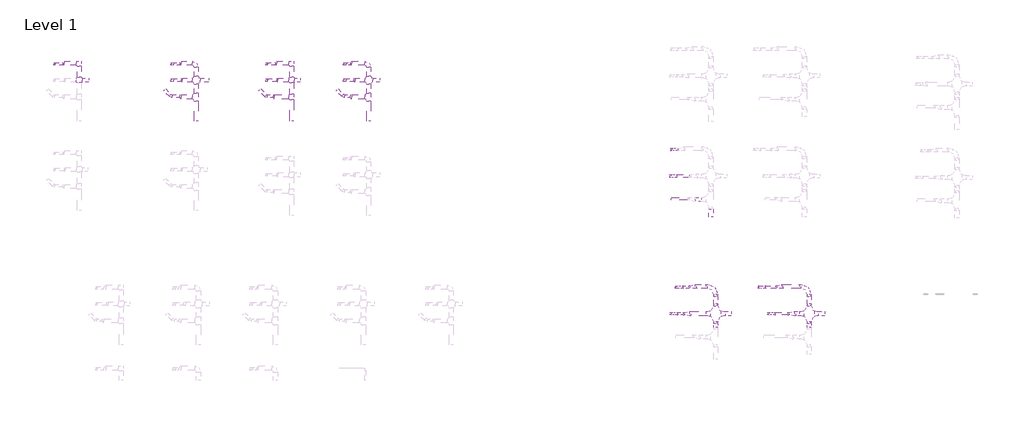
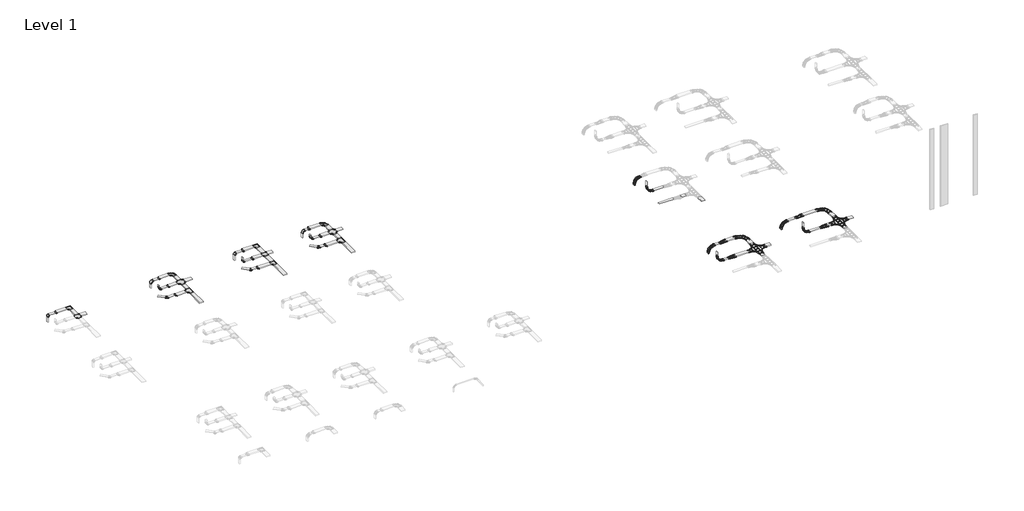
# One storey, part 4 of 42: 68 cable carrier segments, 45 cable carrier fittings.
"""IFC4 building model written with IfcOpenShell, lengths in millimetres."""

from ifc_helpers import new_model, si_unit, frame, origin, place, context, project, spatial, polyline, outline, extrude, transform, mapped, element, save
from components import cable_carrier_fitting_1_mm_2a4d519b, cable_carrier_fitting_1_mm_2e661681, cable_carrier_fitting_1_mm_c912ada3, cable_carrier_fitting_1_mm_805de479, cable_carrier_fitting_1_mm_529289f4, cable_carrier_fitting_1_mm_c1197fce, cable_carrier_fitting_1_mm_2da36d92, cable_carrier_fitting_1_mm_367de262, cable_carrier_fitting_1_mm_1f39f8d9, cable_carrier_fitting_1_mm_a7febe8f, cable_carrier_fitting_1_mm_28e4292d, cable_carrier_fitting_1_mm_fc54f34e, cable_carrier_fitting_1_mm_42b71fda, cable_carrier_fitting_1_mm_2ed8489a, cable_carrier_fitting_1_mm_6bbfc198, cable_carrier_fitting_1_mm_6862339d, cable_carrier_fitting_1_mm_9a7406c8, cable_carrier_fitting_1_mm_9e79036f, cable_carrier_fitting_1_mm_d3f2b815, cable_carrier_fitting_1_mm_5924018d, cable_carrier_fitting_1_mm_d51f4f64, cable_carrier_fitting_1_mm_cfe8fd75, cable_carrier_fitting_1_mm_02684e42, cable_carrier_fitting_1_mm_9e154423, cable_carrier_fitting_1_5_mm_cc8ef015, cable_carrier_fitting_1_5_mm_7721eeaa, cable_carrier_fitting_1_5_mm_3523910d, cable_carrier_fitting_1_5_mm_74426db5, cable_carrier_fitting_1_5_mm_c053843e, cable_carrier_fitting_1_5_mm_2af02ecb, cable_carrier_fitting_1_5_mm_0168b917, cable_carrier_fitting_1_5_mm_19f47176, cable_carrier_fitting_1_5_mm_861352f9, cable_carrier_fitting_1_5_mm_f55de235

model = new_model("IFC4")

# Units and contexts
model_context = context("Model", 3, world=origin())
ifc_project = project(units=[si_unit("LENGTHUNIT", "METRE", prefix="MILLI")], contexts=[model_context])

# Site, building, storey
site = spatial("IfcSite", under=ifc_project)
building = spatial("IfcBuilding", under=site)
storey = spatial("IfcBuildingStorey", under=building, Name="Level 1", Elevation=0.0)

# Cable carrier fittings
placement = place(None, origin())
cable_carrier_fitting_1_mm_shape = cable_carrier_fitting_1_mm_2a4d519b(model_context)
element("IfcCableCarrierFitting", 1, ObjectType="BAKS_Redukcja : 1 mm", at=placement, inside=storey, context=model_context, shape_type="MappedRepresentation", body=[
    mapped(cable_carrier_fitting_1_mm_shape, transform((-20692.5109632, 18572.5015825, 2750.0), x_axis=(1.0, 0.0, 0.0), y_axis=(0.0, 1.0, 0.0), z_axis=(0.0, 0.0, 1.0))),
])
cable_carrier_fitting_1_mm_2_shape = cable_carrier_fitting_1_mm_2e661681(model_context)
element("IfcCableCarrierFitting", 2, ObjectType="BAKS_Redukcja : 1 mm", at=placement, inside=storey, context=model_context, shape_type="MappedRepresentation", body=[
    mapped(cable_carrier_fitting_1_mm_2_shape, transform((-29212.5109632, 19790.4928401, 2750.0), x_axis=(-1.0, 0.0, 0.0), y_axis=(0.0, -1.0, 0.0), z_axis=(0.0, 0.0, 1.0))),
])
element("IfcCableCarrierFitting", 3, ObjectType="BAKS_Redukcja : 1 mm", at=placement, inside=storey, context=model_context, shape_type="MappedRepresentation", body=[
    mapped(cable_carrier_fitting_1_mm_2_shape, transform((-20692.5109632, 19790.4928401, 2750.0), x_axis=(-1.0, 0.0, 0.0), y_axis=(0.0, -1.0, 0.0), z_axis=(0.0, 0.0, 1.0))),
])
cable_carrier_fitting_1_mm_3_shape = cable_carrier_fitting_1_mm_c912ada3(model_context)
element("IfcCableCarrierFitting", 4, ObjectType="BAKS_Redukcja : 1 mm", at=placement, inside=storey, context=model_context, shape_type="MappedRepresentation", body=[
    mapped(cable_carrier_fitting_1_mm_3_shape, transform((-20692.5109632, 17341.8691699, 2750.0), x_axis=(-1.0, 0.0, 0.0), y_axis=(0.0, -1.0, 0.0), z_axis=(0.0, 0.0, 1.0))),
])
cable_carrier_fitting_1_mm_4_shape = cable_carrier_fitting_1_mm_805de479(model_context)
element("IfcCableCarrierFitting", 5, ObjectType="BAKS_Redukcja : 1 mm", at=placement, inside=storey, context=model_context, shape_type="MappedRepresentation", body=[
    mapped(cable_carrier_fitting_1_mm_4_shape, transform((-13752.21471, 18572.5015825, 2750.0), x_axis=(1.0, 0.0, 0.0), y_axis=(0.0, 1.0, 0.0), z_axis=(0.0, 0.0, 1.0))),
])
element("IfcCableCarrierFitting", 6, ObjectType="BAKS_Redukcja : 1 mm", at=placement, inside=storey, context=model_context, shape_type="MappedRepresentation", body=[
    mapped(cable_carrier_fitting_1_mm_4_shape, transform((-8132.21471, 18572.5015825, 2750.0), x_axis=(1.0, 0.0, 0.0), y_axis=(0.0, 1.0, 0.0), z_axis=(0.0, 0.0, 1.0))),
])
cable_carrier_fitting_1_mm_5_shape = cable_carrier_fitting_1_mm_529289f4(model_context)
element("IfcCableCarrierFitting", 7, ObjectType="BAKS_Redukcja : 1 mm", at=placement, inside=storey, context=model_context, shape_type="MappedRepresentation", body=[
    mapped(cable_carrier_fitting_1_mm_5_shape, transform((-13752.21471, 19790.4928401, 2750.0), x_axis=(-1.0, 0.0, 0.0), y_axis=(0.0, -1.0, 0.0), z_axis=(0.0, 0.0, 1.0))),
])
element("IfcCableCarrierFitting", 8, ObjectType="BAKS_Redukcja : 1 mm", at=placement, inside=storey, context=model_context, shape_type="MappedRepresentation", body=[
    mapped(cable_carrier_fitting_1_mm_5_shape, transform((-8292.21471, 19790.4928401, 2750.0), x_axis=(-1.0, 0.0, 0.0), y_axis=(0.0, -1.0, 0.0), z_axis=(0.0, 0.0, 1.0))),
])
cable_carrier_fitting_1_mm_6_shape = cable_carrier_fitting_1_mm_c1197fce(model_context)
element("IfcCableCarrierFitting", 9, ObjectType="BAKS_Redukcja : 1 mm", at=placement, inside=storey, context=model_context, shape_type="MappedRepresentation", body=[
    mapped(cable_carrier_fitting_1_mm_6_shape, transform((-13912.21471, 17341.8691699, 2750.0), x_axis=(-1.0, 0.0, 0.0), y_axis=(0.0, -1.0, 0.0), z_axis=(0.0, 0.0, 1.0))),
])
element("IfcCableCarrierFitting", 10, ObjectType="BAKS_Redukcja : 1 mm", at=placement, inside=storey, context=model_context, shape_type="MappedRepresentation", body=[
    mapped(cable_carrier_fitting_1_mm_6_shape, transform((-8292.21471, 17341.8691699, 2750.0), x_axis=(-1.0, 0.0, 0.0), y_axis=(0.0, -1.0, 0.0), z_axis=(0.0, 0.0, 1.0))),
])
cable_carrier_fitting_1_mm_7_shape = cable_carrier_fitting_1_mm_2da36d92(model_context)
element("IfcCableCarrierFitting", 11, ObjectType="BAKS_Czwórnik_koryta (R140) : 1 mm", at=placement, inside=storey, context=model_context, shape_type="MappedRepresentation", body=[
    mapped(cable_carrier_fitting_1_mm_7_shape, transform((-19592.5109632, 18572.5015825, 2750.0), x_axis=(0.0, 1.0, 0.0), y_axis=(-1.0, 0.0, 0.0), z_axis=(0.0, 0.0, 1.0))),
])
cable_carrier_fitting_1_mm_8_shape = cable_carrier_fitting_1_mm_367de262(model_context)
element("IfcCableCarrierFitting", 12, ObjectType="BAKS_Czwórnik_koryta (R140) : 1 mm", at=placement, inside=storey, context=model_context, shape_type="MappedRepresentation", body=[
    mapped(cable_carrier_fitting_1_mm_8_shape, transform((-7032.21471, 18572.5015825, 2750.0), x_axis=(0.0, 1.0, 0.0), y_axis=(-1.0, 0.0, 0.0), z_axis=(0.0, 0.0, 1.0))),
])
cable_carrier_fitting_1_mm_9_shape = cable_carrier_fitting_1_mm_1f39f8d9(model_context)
element("IfcCableCarrierFitting", 13, ObjectType="BAKS_Trójnik_koryta (R140) : 1 mm", at=placement, inside=storey, context=model_context, shape_type="MappedRepresentation", body=[
    mapped(cable_carrier_fitting_1_mm_9_shape, transform((-19592.5109632, 17341.8691699, 2750.0), x_axis=(0.0, -1.0, 0.0), y_axis=(1.0, 0.0, 0.0), z_axis=(0.0, 0.0, 1.0))),
])
cable_carrier_fitting_1_mm_10_shape = cable_carrier_fitting_1_mm_a7febe8f(model_context)
element("IfcCableCarrierFitting", 14, ObjectType="BAKS_Trójnik_koryta (R140) : 1 mm", at=placement, inside=storey, context=model_context, shape_type="MappedRepresentation", body=[
    mapped(cable_carrier_fitting_1_mm_10_shape, transform((-7032.21471, 17341.8691699, 2750.0), x_axis=(0.0, -1.0, 0.0), y_axis=(1.0, 0.0, 0.0), z_axis=(0.0, 0.0, 1.0))),
])
cable_carrier_fitting_1_mm_11_shape = cable_carrier_fitting_1_mm_28e4292d(model_context)
element("IfcCableCarrierFitting", 15, ObjectType="BAKS_Kolano_koryta : 1 mm", at=placement, inside=storey, context=model_context, shape_type="MappedRepresentation", body=[
    mapped(cable_carrier_fitting_1_mm_11_shape, transform((-28112.5109632, 19790.4928401, 2750.0), x_axis=(0.0, 1.0, 0.0), y_axis=(-1.0, 0.0, 0.0), z_axis=(0.0, 0.0, 1.0))),
])
cable_carrier_fitting_1_mm_12_shape = cable_carrier_fitting_1_mm_fc54f34e(model_context)
element("IfcCableCarrierFitting", 16, ObjectType="BAKS_Kolano_koryta : 1 mm", at=placement, inside=storey, context=model_context, shape_type="MappedRepresentation", body=[
    mapped(cable_carrier_fitting_1_mm_12_shape, transform((-14492.21471, 17391.8691699, 2750.0), x_axis=(0.7071067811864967, -0.7071067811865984, 0.0), y_axis=(0.7071067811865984, 0.7071067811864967, 0.0), z_axis=(0.0, 0.0, 1.0))),
])
cable_carrier_fitting_1_mm_13_shape = cable_carrier_fitting_1_mm_42b71fda(model_context)
element("IfcCableCarrierFitting", 17, ObjectType="BAKS_Kolano_koryta : 1 mm", at=placement, inside=storey, context=model_context, shape_type="MappedRepresentation", body=[
    mapped(cable_carrier_fitting_1_mm_13_shape, transform((-12652.21471, 19790.4928401, 2750.0), x_axis=(0.0, 1.0, 0.0), y_axis=(-1.0, 0.0, 0.0), z_axis=(0.0, 0.0, 1.0))),
])
cable_carrier_fitting_1_mm_14_shape = cable_carrier_fitting_1_mm_2ed8489a(model_context)
element("IfcCableCarrierFitting", 18, ObjectType="BAKS_Kolano_koryta (R140) : 1 mm", at=placement, inside=storey, context=model_context, shape_type="MappedRepresentation", body=[
    mapped(cable_carrier_fitting_1_mm_14_shape, transform((-21432.5109632, 17391.8691699, 2750.0), x_axis=(0.7071067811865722, -0.7071067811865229, 0.0), y_axis=(0.7071067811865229, 0.7071067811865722, 0.0), z_axis=(0.0, 0.0, 1.0))),
])
cable_carrier_fitting_1_mm_15_shape = cable_carrier_fitting_1_mm_6bbfc198(model_context)
element("IfcCableCarrierFitting", 19, ObjectType="BAKS_Kolano_koryta (R140) : 1 mm", at=placement, inside=storey, context=model_context, shape_type="MappedRepresentation", body=[
    mapped(cable_carrier_fitting_1_mm_15_shape, transform((-19592.5109632, 19790.4928401, 2750.0), x_axis=(0.0, 1.0, 0.0), y_axis=(-1.0, 0.0, 0.0), z_axis=(0.0, 0.0, 1.0))),
])
cable_carrier_fitting_1_mm_16_shape = cable_carrier_fitting_1_mm_6862339d(model_context)
element("IfcCableCarrierFitting", 20, ObjectType="BAKS_Kolano_koryta (R140) : 1 mm", at=placement, inside=storey, context=model_context, shape_type="MappedRepresentation", body=[
    mapped(cable_carrier_fitting_1_mm_16_shape, transform((-8872.21471, 17391.8691699, 2750.0), x_axis=(0.7071067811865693, -0.7071067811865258, 0.0), y_axis=(0.7071067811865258, 0.7071067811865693, 0.0), z_axis=(0.0, 0.0, 1.0))),
])
cable_carrier_fitting_1_mm_17_shape = cable_carrier_fitting_1_mm_9a7406c8(model_context)
element("IfcCableCarrierFitting", 21, ObjectType="BAKS_Kolano_koryta (R140) : 1 mm", at=placement, inside=storey, context=model_context, shape_type="MappedRepresentation", body=[
    mapped(cable_carrier_fitting_1_mm_17_shape, transform((-7032.21471, 19790.4928401, 2750.0), x_axis=(0.0, 1.0, 0.0), y_axis=(-1.0, 0.0, 0.0), z_axis=(0.0, 0.0, 1.0))),
])
cable_carrier_fitting_1_mm_18_shape = cable_carrier_fitting_1_mm_9e79036f(model_context)
element("IfcCableCarrierFitting", 22, ObjectType="BAKS_Czwórnik_koryta : 1 mm", at=placement, inside=storey, context=model_context, shape_type="MappedRepresentation", body=[
    mapped(cable_carrier_fitting_1_mm_18_shape, transform((-28112.5109632, 18572.5015825, 2750.0), x_axis=(0.0, 1.0, 0.0), y_axis=(-1.0, 0.0, 0.0), z_axis=(0.0, 0.0, 1.0))),
])
cable_carrier_fitting_1_mm_19_shape = cable_carrier_fitting_1_mm_d3f2b815(model_context)
element("IfcCableCarrierFitting", 23, ObjectType="BAKS_Czwórnik_koryta : 1 mm", at=placement, inside=storey, context=model_context, shape_type="MappedRepresentation", body=[
    mapped(cable_carrier_fitting_1_mm_19_shape, transform((-12652.21471, 18572.5015825, 2750.0), x_axis=(0.0, 1.0, 0.0), y_axis=(-1.0, 0.0, 0.0), z_axis=(0.0, 0.0, 1.0))),
])
cable_carrier_fitting_1_mm_20_shape = cable_carrier_fitting_1_mm_5924018d(model_context)
element("IfcCableCarrierFitting", 24, ObjectType="BAKS_Trójnik_koryta : 1 mm", at=placement, inside=storey, context=model_context, shape_type="MappedRepresentation", body=[
    mapped(cable_carrier_fitting_1_mm_20_shape, transform((-12652.21471, 17341.8691699, 2750.0), x_axis=(0.0, -1.0, 0.0), y_axis=(1.0, 0.0, 0.0), z_axis=(0.0, 0.0, 1.0))),
])
cable_carrier_fitting_1_mm_21_shape = cable_carrier_fitting_1_mm_d51f4f64(model_context)
element("IfcCableCarrierFitting", 25, ObjectType="BAKS_Łuk_koryta_pionowy (R50)z : 1 mm", at=placement, inside=storey, context=model_context, shape_type="MappedRepresentation", body=[
    mapped(cable_carrier_fitting_1_mm_21_shape, transform((-29952.5109632, 19740.4928401, 2750.0), x_axis=(0.0, 0.0, 1.0), y_axis=(1.0, 0.0, 0.0), z_axis=(0.0, 1.0, 0.0))),
])
cable_carrier_fitting_1_mm_22_shape = cable_carrier_fitting_1_mm_cfe8fd75(model_context)
element("IfcCableCarrierFitting", 26, ObjectType="BAKS_Łuk_koryta_pionowy (R50)z : 1 mm", at=placement, inside=storey, context=model_context, shape_type="MappedRepresentation", body=[
    mapped(cable_carrier_fitting_1_mm_22_shape, transform((-14492.21471, 19740.4928401, 2750.0), x_axis=(0.0, 0.0, 1.0), y_axis=(1.0, 0.0, 0.0), z_axis=(0.0, 1.0, 0.0))),
])
element("IfcCableCarrierFitting", 27, ObjectType="BAKS_Łuk_koryta_pionowy (R50)w : 1 mm", at=placement, inside=storey, context=model_context, shape_type="MappedRepresentation", body=[
    mapped(cable_carrier_fitting_1_mm_22_shape, transform((-14492.21471, 18572.5015825, 2750.0), x_axis=(0.0, 0.0, -1.0), y_axis=(1.0, 0.0, 0.0), z_axis=(0.0, -1.0, 0.0))),
])
cable_carrier_fitting_1_mm_23_shape = cable_carrier_fitting_1_mm_02684e42(model_context)
element("IfcCableCarrierFitting", 28, ObjectType="BAKS_Łuk_koryta_pionowy (R140)z : 1 mm", at=placement, inside=storey, context=model_context, shape_type="MappedRepresentation", body=[
    mapped(cable_carrier_fitting_1_mm_23_shape, transform((-8872.21471, 19740.4928401, 2750.0), x_axis=(0.0, 0.0, 1.0), y_axis=(1.0, 0.0, 0.0), z_axis=(0.0, 1.0, 0.0))),
])
cable_carrier_fitting_1_mm_24_shape = cable_carrier_fitting_1_mm_9e154423(model_context)
element("IfcCableCarrierFitting", 29, ObjectType="BAKS_Łuk_koryta_pionowy (R140)z : 1 mm", at=placement, inside=storey, context=model_context, shape_type="MappedRepresentation", body=[
    mapped(cable_carrier_fitting_1_mm_24_shape, transform((-21432.5109632, 19740.4928401, 2750.0), x_axis=(0.0, 0.0, 1.0), y_axis=(1.0, 0.0, 0.0), z_axis=(0.0, 1.0, 0.0))),
])
element("IfcCableCarrierFitting", 30, ObjectType="BAKS_Łuk_koryta_pionowy (R140)w : 1 mm", at=placement, inside=storey, context=model_context, shape_type="MappedRepresentation", body=[
    mapped(cable_carrier_fitting_1_mm_23_shape, transform((-8872.21471, 18572.5015825, 2750.0), x_axis=(0.0, 0.0, -1.0), y_axis=(1.0, 0.0, 0.0), z_axis=(0.0, -1.0, 0.0))),
])
element("IfcCableCarrierFitting", 31, ObjectType="BAKS_Łuk_koryta_pionowy (R140)w : 1 mm", at=placement, inside=storey, context=model_context, shape_type="MappedRepresentation", body=[
    mapped(cable_carrier_fitting_1_mm_24_shape, transform((-21432.5109632, 18572.5015825, 2750.0), x_axis=(0.0, 0.0, -1.0), y_axis=(1.0, 0.0, 0.0), z_axis=(0.0, -1.0, 0.0))),
])
cable_carrier_fitting_1_5_mm_shape = cable_carrier_fitting_1_5_mm_cc8ef015(model_context)
element("IfcCableCarrierFitting", 32, ObjectType="BAKS_Łuk_pionowy_drabiny_zew E90 : 1.5 mm", at=placement, inside=storey, context=model_context, shape_type="MappedRepresentation", body=[
    mapped(cable_carrier_fitting_1_5_mm_shape, transform((21336.055047, 3486.5465, 2750.0), x_axis=(0.0, 0.0, 1.0), y_axis=(1.0, 0.0, 0.0), z_axis=(0.0, 1.0, 0.0))),
])
element("IfcCableCarrierFitting", 33, ObjectType="BAKS_Łuk_pionowy_drabiny_zew E90 : 1.5 mm", at=placement, inside=storey, context=model_context, shape_type="MappedRepresentation", body=[
    mapped(cable_carrier_fitting_1_5_mm_shape, transform((15313.9258241, 3486.5465, 2750.0), x_axis=(0.0, 0.0, 1.0), y_axis=(1.0, 0.0, 0.0), z_axis=(0.0, 1.0, 0.0))),
])
cable_carrier_fitting_1_5_mm_2_shape = cable_carrier_fitting_1_5_mm_7721eeaa(model_context)
element("IfcCableCarrierFitting", 34, ObjectType="BAKS_Łuk_pionowy_drabiny_wew E90 : 1.5 mm", at=placement, inside=storey, context=model_context, shape_type="MappedRepresentation", body=[
    mapped(cable_carrier_fitting_1_5_mm_2_shape, transform((14941.055047, 1549.7680497, 2750.0), x_axis=(0.0, 0.0, -1.0), y_axis=(1.0, 0.0, 0.0), z_axis=(0.0, -1.0, 0.0))),
])
element("IfcCableCarrierFitting", 35, ObjectType="BAKS_Łuk_pionowy_drabiny_wew E90 : 1.5 mm", at=placement, inside=storey, context=model_context, shape_type="MappedRepresentation", body=[
    mapped(cable_carrier_fitting_1_5_mm_2_shape, transform((22041.055047, 1549.7680497, 2750.0), x_axis=(0.0, 0.0, -1.0), y_axis=(1.0, 0.0, 0.0), z_axis=(0.0, -1.0, 0.0))),
])
cable_carrier_fitting_1_5_mm_3_shape = cable_carrier_fitting_1_5_mm_3523910d(model_context)
element("IfcCableCarrierFitting", 36, ObjectType="BAKS_Łuk_drabiny E90 : 1.5 mm", at=placement, inside=storey, context=model_context, shape_type="MappedRepresentation", body=[
    mapped(cable_carrier_fitting_1_5_mm_3_shape, transform((25012.7309526, 3536.5465, 2750.0), x_axis=(0.0, 1.0, 0.0), y_axis=(-1.0, 0.0, 0.0), z_axis=(0.0, 0.0, 1.0))),
])
element("IfcCableCarrierFitting", 37, ObjectType="BAKS_Łuk_drabiny E90 : 1.5 mm", at=placement, inside=storey, context=model_context, shape_type="MappedRepresentation", body=[
    mapped(cable_carrier_fitting_1_5_mm_3_shape, transform((18212.7309526, 3536.5465, 2750.0), x_axis=(0.0, 1.0, 0.0), y_axis=(-1.0, 0.0, 0.0), z_axis=(0.0, 0.0, 1.0))),
])
cable_carrier_fitting_1_5_mm_4_shape = cable_carrier_fitting_1_5_mm_74426db5(model_context)
element("IfcCableCarrierFitting", 38, ObjectType="BAKS_Redukcja_drabiny E90 : 1.5 mm", at=placement, inside=storey, context=model_context, shape_type="MappedRepresentation", body=[
    mapped(cable_carrier_fitting_1_5_mm_4_shape, transform((16441.055047, 1549.7680497, 2750.0), x_axis=(-1.0, 0.0, 0.0), y_axis=(0.0, -1.0, 0.0), z_axis=(0.0, 0.0, 1.0))),
])
cable_carrier_fitting_1_5_mm_5_shape = cable_carrier_fitting_1_5_mm_c053843e(model_context)
element("IfcCableCarrierFitting", 39, ObjectType="BAKS_Redukcja_drabiny E90 : 1.5 mm", at=placement, inside=storey, context=model_context, shape_type="MappedRepresentation", body=[
    mapped(cable_carrier_fitting_1_5_mm_5_shape, transform((23461.055047, 1549.7680497, 2750.0), x_axis=(1.0, 0.0, 0.0), y_axis=(0.0, 1.0, 0.0), z_axis=(0.0, 0.0, 1.0))),
])
cable_carrier_fitting_1_5_mm_6_shape = cable_carrier_fitting_1_5_mm_2af02ecb(model_context)
element("IfcCableCarrierFitting", 40, ObjectType="BAKS_Redukcja_drabiny E90 : 1.5 mm", at=placement, inside=storey, context=model_context, shape_type="MappedRepresentation", body=[
    mapped(cable_carrier_fitting_1_5_mm_6_shape, transform((23146.1450634, 3536.5465, 2750.0), x_axis=(-1.0, 0.0, 0.0), y_axis=(0.0, -1.0, 0.0), z_axis=(0.0, 0.0, 1.0))),
])
cable_carrier_fitting_1_5_mm_7_shape = cable_carrier_fitting_1_5_mm_0168b917(model_context)
element("IfcCableCarrierFitting", 41, ObjectType="BAKS_Redukcja_drabiny E90 : 1.5 mm", at=placement, inside=storey, context=model_context, shape_type="MappedRepresentation", body=[
    mapped(cable_carrier_fitting_1_5_mm_7_shape, transform((16232.7309526, 3486.5465, 2750.0), x_axis=(1.0, 0.0, 0.0), y_axis=(0.0, 1.0, 0.0), z_axis=(0.0, 0.0, 1.0))),
])
cable_carrier_fitting_1_5_mm_8_shape = cable_carrier_fitting_1_5_mm_19f47176(model_context)
element("IfcCableCarrierFitting", 42, ObjectType="BAKS_Czwórnik_drabiny E90 : 1.5 mm", at=placement, inside=storey, context=model_context, shape_type="MappedRepresentation", body=[
    mapped(cable_carrier_fitting_1_5_mm_8_shape, transform((18212.7309526, 1549.7680497, 2750.0), x_axis=(0.0, 1.0, 0.0), y_axis=(-1.0, 0.0, 0.0), z_axis=(0.0, 0.0, 1.0))),
])
element("IfcCableCarrierFitting", 43, ObjectType="BAKS_Czwórnik_drabiny E90 : 1.5 mm", at=placement, inside=storey, context=model_context, shape_type="MappedRepresentation", body=[
    mapped(cable_carrier_fitting_1_5_mm_8_shape, transform((25012.7309526, 1549.7680497, 2750.0), x_axis=(0.0, 1.0, 0.0), y_axis=(-1.0, 0.0, 0.0), z_axis=(0.0, 0.0, 1.0))),
])
cable_carrier_fitting_1_5_mm_9_shape = cable_carrier_fitting_1_5_mm_861352f9(model_context)
element("IfcCableCarrierFitting", 44, ObjectType="BAKS_Łuk_pionowy_drabiny_zew : 1.5 mm", at=placement, inside=storey, context=model_context, shape_type="MappedRepresentation", body=[
    mapped(cable_carrier_fitting_1_5_mm_9_shape, transform((14977.0936106, 13518.4533524, 2750.0), x_axis=(0.0, 0.0, 1.0), y_axis=(1.0, 0.0, 0.0), z_axis=(0.0, 1.0, 0.0))),
])
cable_carrier_fitting_1_5_mm_10_shape = cable_carrier_fitting_1_5_mm_f55de235(model_context)
element("IfcCableCarrierFitting", 45, ObjectType="BAKS_Łuk_pionowy_drabiny_wew : 1.5 mm", at=placement, inside=storey, context=model_context, shape_type="MappedRepresentation", body=[
    mapped(cable_carrier_fitting_1_5_mm_10_shape, transform((14904.2228336, 11581.6749022, 2750.0), x_axis=(0.0, 0.0, -1.0), y_axis=(1.0, 0.0, 0.0), z_axis=(0.0, -1.0, 0.0))),
])

# Cable carrier segments
element("IfcCableCarrierSegment", 46, ObjectType="BAKS - koryto kablowe H50 (KCL) - ostre", at=placement, inside=storey, context=model_context, shape_type="SweptSolid", body=[
    extrude(outline(polyline([(-29977.5109632, 19840.4928401), (-29927.5109632, 19840.4928401), (-29927.5109632, 19640.4928401), (-29977.5109632, 19640.4928401), (-29977.5109632, 19840.4928401)])), frame((0.0, 0.0, 2200.0), z_axis=(0.0, 0.0, 1.0), x_axis=(1.0, 0.0, 0.0)), (0.0, 0.0, 1.0), 450.0),
])
element("IfcCableCarrierSegment", 47, ObjectType="BAKS - koryto kablowe H50 (KCL) - ostre", at=placement, inside=storey, context=model_context, shape_type="SweptSolid", body=[
    extrude(outline(polyline([(-29307.5109632, 19840.4928401), (-29307.5109632, 19640.4928401), (-29852.5109632, 19640.4928401), (-29852.5109632, 19840.4928401), (-29307.5109632, 19840.4928401)])), frame((0.0, 0.0, 2725.0), z_axis=(0.0, 0.0, 1.0), x_axis=(1.0, 0.0, 0.0)), (0.0, 0.0, 1.0), 50.0),
])
element("IfcCableCarrierSegment", 48, ObjectType="BAKS - koryto kablowe H50 (KCL) - ostre", at=placement, inside=storey, context=model_context, shape_type="SweptSolid", body=[
    extrude(outline(polyline([(-27410.0109632, 18722.5015825), (-27410.0109632, 18422.5015825), (-27907.5109632, 18422.5015825), (-27907.5109632, 18722.5015825), (-27410.0109632, 18722.5015825)])), frame((0.0, 0.0, 2725.0), z_axis=(0.0, 0.0, 1.0), x_axis=(1.0, 0.0, 0.0)), (0.0, 0.0, 1.0), 50.0),
])
element("IfcCableCarrierSegment", 49, ObjectType="BAKS - koryto kablowe H50 (KCL) - ostre", at=placement, inside=storey, context=model_context, shape_type="SweptSolid", body=[
    extrude(outline(polyline([(-27962.5109632, 18777.5015825), (-28262.5109632, 18777.5015825), (-28262.5109632, 19584.4928401), (-27962.5109632, 19584.4928401), (-27962.5109632, 18777.5015825)])), frame((0.0, 0.0, 2725.0), z_axis=(0.0, 0.0, 1.0), x_axis=(1.0, 0.0, 0.0)), (0.0, 0.0, 1.0), 50.0),
])
element("IfcCableCarrierSegment", 50, ObjectType="BAKS - koryto kablowe H50 (KCL) - ostre", at=placement, inside=storey, context=model_context, shape_type="SweptSolid", body=[
    extrude(outline(polyline([(-28318.5109632, 19940.4928401), (-28318.5109632, 19640.4928401), (-29212.5109632, 19640.4928401), (-29212.5109632, 19940.4928401), (-28318.5109632, 19940.4928401)])), frame((0.0, 0.0, 2725.0), z_axis=(0.0, 0.0, 1.0), x_axis=(1.0, 0.0, 0.0)), (0.0, 0.0, 1.0), 50.0),
])
element("IfcCableCarrierSegment", 51, ObjectType="BAKS - koryto kablowe H50 (KCL) - promieniowe", at=placement, inside=storey, context=model_context, shape_type="SweptSolid", body=[
    extrude(outline(polyline([(-19442.5109632, 17632.8691699), (-19742.5109632, 17632.8691699), (-19742.5109632, 18281.5015825), (-19442.5109632, 18281.5015825), (-19442.5109632, 17632.8691699)])), frame((0.0, 0.0, 2725.0), z_axis=(0.0, 0.0, 1.0), x_axis=(1.0, 0.0, 0.0)), (0.0, 0.0, 1.0), 50.0),
])
element("IfcCableCarrierSegment", 52, ObjectType="BAKS - koryto kablowe H50 (KCL) - promieniowe", at=placement, inside=storey, context=model_context, shape_type="SweptSolid", body=[
    extrude(outline(polyline([(-21407.5109632, 19640.4928401), (-21457.5109632, 19640.4928401), (-21457.5109632, 19840.4928401), (-21407.5109632, 19840.4928401), (-21407.5109632, 19640.4928401)])), frame((0.0, 0.0, 2200.0), z_axis=(0.0, 0.0, 1.0), x_axis=(1.0, 0.0, 0.0)), (0.0, 0.0, 1.0), 360.0),
])
element("IfcCableCarrierSegment", 53, ObjectType="BAKS - koryto kablowe H50 (KCL) - promieniowe", at=placement, inside=storey, context=model_context, shape_type="SweptSolid", body=[
    extrude(outline(polyline([(-20787.5109632, 19840.4928401), (-20787.5109632, 19640.4928401), (-21242.5109632, 19640.4928401), (-21242.5109632, 19840.4928401), (-20787.5109632, 19840.4928401)])), frame((0.0, 0.0, 2725.0), z_axis=(0.0, 0.0, 1.0), x_axis=(1.0, 0.0, 0.0)), (0.0, 0.0, 1.0), 50.0),
])
element("IfcCableCarrierSegment", 54, ObjectType="BAKS - koryto kablowe H50 (KCL) - promieniowe", at=placement, inside=storey, context=model_context, shape_type="SweptSolid", body=[
    extrude(outline(polyline([(-19442.5109632, 15590.4928401), (-19742.5109632, 15590.4928401), (-19742.5109632, 17050.8691699), (-19442.5109632, 17050.8691699), (-19442.5109632, 15590.4928401)])), frame((0.0, 0.0, 2725.0), z_axis=(0.0, 0.0, 1.0), x_axis=(1.0, 0.0, 0.0)), (0.0, 0.0, 1.0), 50.0),
])
element("IfcCableCarrierSegment", 55, ObjectType="BAKS - koryto kablowe H50 (KCL) - promieniowe", at=placement, inside=storey, context=model_context, shape_type="SweptSolid", body=[
    extrude(outline(polyline([(-21457.5109632, 18472.5015825), (-21457.5109632, 18672.5015825), (-21407.5109632, 18672.5015825), (-21407.5109632, 18472.5015825), (-21457.5109632, 18472.5015825)])), frame((0.0, 0.0, 2940.0), z_axis=(0.0, 0.0, 1.0), x_axis=(1.0, 0.0, 0.0)), (0.0, 0.0, 1.0), 160.0),
])
element("IfcCableCarrierSegment", 56, ObjectType="BAKS - koryto kablowe H50 (KCL) - promieniowe", at=placement, inside=storey, context=model_context, shape_type="SweptSolid", body=[
    extrude(outline(polyline([(-21242.5109632, 18472.5015825), (-21242.5109632, 18672.5015825), (-20692.5109632, 18672.5015825), (-20692.5109632, 18472.5015825), (-21242.5109632, 18472.5015825)])), frame((0.0, 0.0, 2725.0), z_axis=(0.0, 0.0, 1.0), x_axis=(1.0, 0.0, 0.0)), (0.0, 0.0, 1.0), 50.0),
])
element("IfcCableCarrierSegment", 57, ObjectType="BAKS - koryto kablowe H50 (KCL) - promieniowe", at=placement, inside=storey, context=model_context, shape_type="SweptSolid", body=[
    extrude(outline(polyline([(-21969.9121169, 17787.8489674), (-21828.4907606, 17929.2703236), (-21432.8017644, 17533.5813273), (-21574.2231206, 17392.1599711), (-21969.9121169, 17787.8489674)])), frame((0.0, 0.0, 2725.0), z_axis=(0.0, 0.0, 1.0), x_axis=(1.0, 0.0, 0.0)), (0.0, 0.0, 1.0), 50.0),
])
element("IfcCableCarrierSegment", 58, ObjectType="BAKS - koryto kablowe H50 (KCL) - promieniowe", at=placement, inside=storey, context=model_context, shape_type="SweptSolid", body=[
    extrude(outline(polyline([(-20787.5109632, 17491.8691699), (-20787.5109632, 17291.8691699), (-21332.0997082, 17291.8691699), (-21332.0997082, 17491.8691699), (-20787.5109632, 17491.8691699)])), frame((0.0, 0.0, 2725.0), z_axis=(0.0, 0.0, 1.0), x_axis=(1.0, 0.0, 0.0)), (0.0, 0.0, 1.0), 50.0),
])
element("IfcCableCarrierSegment", 59, ObjectType="BAKS - koryto kablowe H50 (KCL) - promieniowe", at=placement, inside=storey, context=model_context, shape_type="SweptSolid", body=[
    extrude(outline(polyline([(-18697.5109632, 18722.5015825), (-18697.5109632, 18422.5015825), (-19301.5109632, 18422.5015825), (-19301.5109632, 18722.5015825), (-18697.5109632, 18722.5015825)])), frame((0.0, 0.0, 2725.0), z_axis=(0.0, 0.0, 1.0), x_axis=(1.0, 0.0, 0.0)), (0.0, 0.0, 1.0), 50.0),
])
element("IfcCableCarrierSegment", 60, ObjectType="BAKS - koryto kablowe H50 (KCL) - promieniowe", at=placement, inside=storey, context=model_context, shape_type="SweptSolid", body=[
    extrude(outline(polyline([(-19883.5109632, 17491.8691699), (-19883.5109632, 17191.8691699), (-20692.5109632, 17191.8691699), (-20692.5109632, 17491.8691699), (-19883.5109632, 17491.8691699)])), frame((0.0, 0.0, 2725.0), z_axis=(0.0, 0.0, 1.0), x_axis=(1.0, 0.0, 0.0)), (0.0, 0.0, 1.0), 50.0),
])
element("IfcCableCarrierSegment", 61, ObjectType="BAKS - koryto kablowe H50 (KCL) - promieniowe", at=placement, inside=storey, context=model_context, shape_type="SweptSolid", body=[
    extrude(outline(polyline([(-20597.5109632, 18422.5015825), (-20597.5109632, 18722.5015825), (-19883.5109632, 18722.5015825), (-19883.5109632, 18422.5015825), (-20597.5109632, 18422.5015825)])), frame((0.0, 0.0, 2725.0), z_axis=(0.0, 0.0, 1.0), x_axis=(1.0, 0.0, 0.0)), (0.0, 0.0, 1.0), 50.0),
])
element("IfcCableCarrierSegment", 62, ObjectType="BAKS - koryto kablowe H50 (KCL) - promieniowe", at=placement, inside=storey, context=model_context, shape_type="SweptSolid", body=[
    extrude(outline(polyline([(-19442.5109632, 18863.5015825), (-19742.5109632, 18863.5015825), (-19742.5109632, 19499.4928401), (-19442.5109632, 19499.4928401), (-19442.5109632, 18863.5015825)])), frame((0.0, 0.0, 2725.0), z_axis=(0.0, 0.0, 1.0), x_axis=(1.0, 0.0, 0.0)), (0.0, 0.0, 1.0), 50.0),
])
element("IfcCableCarrierSegment", 63, ObjectType="BAKS - koryto kablowe H50 (KCL) - promieniowe", at=placement, inside=storey, context=model_context, shape_type="SweptSolid", body=[
    extrude(outline(polyline([(-19883.5109632, 19940.4928401), (-19883.5109632, 19640.4928401), (-20692.5109632, 19640.4928401), (-20692.5109632, 19940.4928401), (-19883.5109632, 19940.4928401)])), frame((0.0, 0.0, 2725.0), z_axis=(0.0, 0.0, 1.0), x_axis=(1.0, 0.0, 0.0)), (0.0, 0.0, 1.0), 50.0),
])
element("IfcCableCarrierSegment", 64, ObjectType="BAKS - koryto kablowe H60 (KGL) - ostre", at=placement, inside=storey, context=model_context, shape_type="SweptSolid", body=[
    extrude(outline(polyline([(-12502.21471, 17546.8691699), (-12802.21471, 17546.8691699), (-12802.21471, 18367.5015825), (-12502.21471, 18367.5015825), (-12502.21471, 17546.8691699)])), frame((0.0, 0.0, 2720.0), z_axis=(0.0, 0.0, 1.0), x_axis=(1.0, 0.0, 0.0)), (0.0, 0.0, 1.0), 60.0),
])
element("IfcCableCarrierSegment", 65, ObjectType="BAKS - koryto kablowe H60 (KGL) - ostre", at=placement, inside=storey, context=model_context, shape_type="SweptSolid", body=[
    extrude(outline(polyline([(-14462.21471, 19640.4928401), (-14522.21471, 19640.4928401), (-14522.21471, 19840.4928401), (-14462.21471, 19840.4928401), (-14462.21471, 19640.4928401)])), frame((0.0, 0.0, 2200.0), z_axis=(0.0, 0.0, 1.0), x_axis=(1.0, 0.0, 0.0)), (0.0, 0.0, 1.0), 445.0),
])
element("IfcCableCarrierSegment", 66, ObjectType="BAKS - koryto kablowe H60 (KGL) - ostre", at=placement, inside=storey, context=model_context, shape_type="SweptSolid", body=[
    extrude(outline(polyline([(-13847.21471, 19840.4928401), (-13847.21471, 19640.4928401), (-14387.21471, 19640.4928401), (-14387.21471, 19840.4928401), (-13847.21471, 19840.4928401)])), frame((0.0, 0.0, 2720.0), z_axis=(0.0, 0.0, 1.0), x_axis=(1.0, 0.0, 0.0)), (0.0, 0.0, 1.0), 60.0),
])
element("IfcCableCarrierSegment", 67, ObjectType="BAKS - koryto kablowe H60 (KGL) - ostre", at=placement, inside=storey, context=model_context, shape_type="SweptSolid", body=[
    extrude(outline(polyline([(-12502.21471, 15590.4928401), (-12802.21471, 15590.4928401), (-12802.21471, 17136.8691699), (-12502.21471, 17136.8691699), (-12502.21471, 15590.4928401)])), frame((0.0, 0.0, 2720.0), z_axis=(0.0, 0.0, 1.0), x_axis=(1.0, 0.0, 0.0)), (0.0, 0.0, 1.0), 60.0),
])
element("IfcCableCarrierSegment", 68, ObjectType="BAKS - koryto kablowe H60 (KGL) - ostre", at=placement, inside=storey, context=model_context, shape_type="SweptSolid", body=[
    extrude(outline(polyline([(-14522.21471, 18472.5015825), (-14522.21471, 18672.5015825), (-14462.21471, 18672.5015825), (-14462.21471, 18472.5015825), (-14522.21471, 18472.5015825)])), frame((0.0, 0.0, 2855.0), z_axis=(0.0, 0.0, 1.0), x_axis=(1.0, 0.0, 0.0)), (0.0, 0.0, 1.0), 245.0),
])
element("IfcCableCarrierSegment", 69, ObjectType="BAKS - koryto kablowe H60 (KGL) - ostre", at=placement, inside=storey, context=model_context, shape_type="SweptSolid", body=[
    extrude(outline(polyline([(-14387.21471, 18472.5015825), (-14387.21471, 18672.5015825), (-13752.21471, 18672.5015825), (-13752.21471, 18472.5015825), (-14387.21471, 18472.5015825)])), frame((0.0, 0.0, 2720.0), z_axis=(0.0, 0.0, 1.0), x_axis=(1.0, 0.0, 0.0)), (0.0, 0.0, 1.0), 60.0),
])
element("IfcCableCarrierSegment", 70, ObjectType="BAKS - koryto kablowe H60 (KGL) - ostre", at=placement, inside=storey, context=model_context, shape_type="SweptSolid", body=[
    extrude(outline(polyline([(-15029.6158637, 17787.8489674), (-14888.1945075, 17929.2703236), (-14467.6095876, 17508.6854037), (-14609.0309438, 17367.2640475), (-15029.6158637, 17787.8489674)])), frame((0.0, 0.0, 2720.0), z_axis=(0.0, 0.0, 1.0), x_axis=(1.0, 0.0, 0.0)), (0.0, 0.0, 1.0), 60.0),
])
element("IfcCableCarrierSegment", 71, ObjectType="BAKS - koryto kablowe H60 (KGL) - ostre", at=placement, inside=storey, context=model_context, shape_type="SweptSolid", body=[
    extrude(outline(polyline([(-14007.21471, 17491.8691699), (-14007.21471, 17291.8691699), (-14427.0116078, 17291.8691699), (-14427.0116078, 17491.8691699), (-14007.21471, 17491.8691699)])), frame((0.0, 0.0, 2720.0), z_axis=(0.0, 0.0, 1.0), x_axis=(1.0, 0.0, 0.0)), (0.0, 0.0, 1.0), 60.0),
])
element("IfcCableCarrierSegment", 72, ObjectType="BAKS - koryto kablowe H60 (KGL) - ostre", at=placement, inside=storey, context=model_context, shape_type="SweptSolid", body=[
    extrude(outline(polyline([(-12029.71471, 18722.5015825), (-12029.71471, 18422.5015825), (-12447.21471, 18422.5015825), (-12447.21471, 18722.5015825), (-12029.71471, 18722.5015825)])), frame((0.0, 0.0, 2720.0), z_axis=(0.0, 0.0, 1.0), x_axis=(1.0, 0.0, 0.0)), (0.0, 0.0, 1.0), 60.0),
])
element("IfcCableCarrierSegment", 73, ObjectType="BAKS - koryto kablowe H60 (KGL) - ostre", at=placement, inside=storey, context=model_context, shape_type="SweptSolid", body=[
    extrude(outline(polyline([(-12857.21471, 17491.8691699), (-12857.21471, 17191.8691699), (-13912.21471, 17191.8691699), (-13912.21471, 17491.8691699), (-12857.21471, 17491.8691699)])), frame((0.0, 0.0, 2720.0), z_axis=(0.0, 0.0, 1.0), x_axis=(1.0, 0.0, 0.0)), (0.0, 0.0, 1.0), 60.0),
])
element("IfcCableCarrierSegment", 74, ObjectType="BAKS - koryto kablowe H60 (KGL) - ostre", at=placement, inside=storey, context=model_context, shape_type="SweptSolid", body=[
    extrude(outline(polyline([(-13657.21471, 18422.5015825), (-13657.21471, 18722.5015825), (-12857.21471, 18722.5015825), (-12857.21471, 18422.5015825), (-13657.21471, 18422.5015825)])), frame((0.0, 0.0, 2720.0), z_axis=(0.0, 0.0, 1.0), x_axis=(1.0, 0.0, 0.0)), (0.0, 0.0, 1.0), 60.0),
])
element("IfcCableCarrierSegment", 75, ObjectType="BAKS - koryto kablowe H60 (KGL) - ostre", at=placement, inside=storey, context=model_context, shape_type="SweptSolid", body=[
    extrude(outline(polyline([(-12502.21471, 18777.5015825), (-12802.21471, 18777.5015825), (-12802.21471, 19584.4928401), (-12502.21471, 19584.4928401), (-12502.21471, 18777.5015825)])), frame((0.0, 0.0, 2720.0), z_axis=(0.0, 0.0, 1.0), x_axis=(1.0, 0.0, 0.0)), (0.0, 0.0, 1.0), 60.0),
])
element("IfcCableCarrierSegment", 76, ObjectType="BAKS - koryto kablowe H60 (KGL) - ostre", at=placement, inside=storey, context=model_context, shape_type="SweptSolid", body=[
    extrude(outline(polyline([(-12858.21471, 19940.4928401), (-12858.21471, 19640.4928401), (-13752.21471, 19640.4928401), (-13752.21471, 19940.4928401), (-12858.21471, 19940.4928401)])), frame((0.0, 0.0, 2720.0), z_axis=(0.0, 0.0, 1.0), x_axis=(1.0, 0.0, 0.0)), (0.0, 0.0, 1.0), 60.0),
])
element("IfcCableCarrierSegment", 77, ObjectType="BAKS - koryto kablowe H60 (KGL) - promieniowe", at=placement, inside=storey, context=model_context, shape_type="SweptSolid", body=[
    extrude(outline(polyline([(-6882.21471, 17632.8691699), (-7182.21471, 17632.8691699), (-7182.21471, 18281.5015825), (-6882.21471, 18281.5015825), (-6882.21471, 17632.8691699)])), frame((0.0, 0.0, 2720.0), z_axis=(0.0, 0.0, 1.0), x_axis=(1.0, 0.0, 0.0)), (0.0, 0.0, 1.0), 60.0),
])
element("IfcCableCarrierSegment", 78, ObjectType="BAKS - koryto kablowe H60 (KGL) - promieniowe", at=placement, inside=storey, context=model_context, shape_type="SweptSolid", body=[
    extrude(outline(polyline([(-8842.21471, 19640.4928401), (-8902.21471, 19640.4928401), (-8902.21471, 19840.4928401), (-8842.21471, 19840.4928401), (-8842.21471, 19640.4928401)])), frame((0.0, 0.0, 2200.0), z_axis=(0.0, 0.0, 1.0), x_axis=(1.0, 0.0, 0.0)), (0.0, 0.0, 1.0), 355.0),
])
element("IfcCableCarrierSegment", 79, ObjectType="BAKS - koryto kablowe H60 (KGL) - promieniowe", at=placement, inside=storey, context=model_context, shape_type="SweptSolid", body=[
    extrude(outline(polyline([(-8387.21471, 19840.4928401), (-8387.21471, 19640.4928401), (-8677.21471, 19640.4928401), (-8677.21471, 19840.4928401), (-8387.21471, 19840.4928401)])), frame((0.0, 0.0, 2720.0), z_axis=(0.0, 0.0, 1.0), x_axis=(1.0, 0.0, 0.0)), (0.0, 0.0, 1.0), 60.0),
])
element("IfcCableCarrierSegment", 80, ObjectType="BAKS - koryto kablowe H60 (KGL) - promieniowe", at=placement, inside=storey, context=model_context, shape_type="SweptSolid", body=[
    extrude(outline(polyline([(-6882.21471, 15590.4928401), (-7182.21471, 15590.4928401), (-7182.21471, 17050.8691699), (-6882.21471, 17050.8691699), (-6882.21471, 15590.4928401)])), frame((0.0, 0.0, 2720.0), z_axis=(0.0, 0.0, 1.0), x_axis=(1.0, 0.0, 0.0)), (0.0, 0.0, 1.0), 60.0),
])
element("IfcCableCarrierSegment", 81, ObjectType="BAKS - koryto kablowe H60 (KGL) - promieniowe", at=placement, inside=storey, context=model_context, shape_type="SweptSolid", body=[
    extrude(outline(polyline([(-8902.21471, 18472.5015825), (-8902.21471, 18672.5015825), (-8842.21471, 18672.5015825), (-8842.21471, 18472.5015825), (-8902.21471, 18472.5015825)])), frame((0.0, 0.0, 2945.0), z_axis=(0.0, 0.0, 1.0), x_axis=(1.0, 0.0, 0.0)), (0.0, 0.0, 1.0), 155.0),
])
element("IfcCableCarrierSegment", 82, ObjectType="BAKS - koryto kablowe H60 (KGL) - promieniowe", at=placement, inside=storey, context=model_context, shape_type="SweptSolid", body=[
    extrude(outline(polyline([(-8677.21471, 18472.5015825), (-8677.21471, 18672.5015825), (-8132.21471, 18672.5015825), (-8132.21471, 18472.5015825), (-8677.21471, 18472.5015825)])), frame((0.0, 0.0, 2720.0), z_axis=(0.0, 0.0, 1.0), x_axis=(1.0, 0.0, 0.0)), (0.0, 0.0, 1.0), 60.0),
])
element("IfcCableCarrierSegment", 83, ObjectType="BAKS - koryto kablowe H60 (KGL) - promieniowe", at=placement, inside=storey, context=model_context, shape_type="SweptSolid", body=[
    extrude(outline(polyline([(-9409.6158637, 17787.8489674), (-9268.1945075, 17929.2703236), (-8872.5055112, 17533.5813273), (-9013.9268674, 17392.1599711), (-9409.6158637, 17787.8489674)])), frame((0.0, 0.0, 2720.0), z_axis=(0.0, 0.0, 1.0), x_axis=(1.0, 0.0, 0.0)), (0.0, 0.0, 1.0), 60.0),
])
element("IfcCableCarrierSegment", 84, ObjectType="BAKS - koryto kablowe H60 (KGL) - promieniowe", at=placement, inside=storey, context=model_context, shape_type="SweptSolid", body=[
    extrude(outline(polyline([(-8387.21471, 17491.8691699), (-8387.21471, 17291.8691699), (-8771.803455, 17291.8691699), (-8771.803455, 17491.8691699), (-8387.21471, 17491.8691699)])), frame((0.0, 0.0, 2720.0), z_axis=(0.0, 0.0, 1.0), x_axis=(1.0, 0.0, 0.0)), (0.0, 0.0, 1.0), 60.0),
])
element("IfcCableCarrierSegment", 85, ObjectType="BAKS - koryto kablowe H60 (KGL) - promieniowe", at=placement, inside=storey, context=model_context, shape_type="SweptSolid", body=[
    extrude(outline(polyline([(-6237.21471, 18722.5015825), (-6237.21471, 18422.5015825), (-6741.21471, 18422.5015825), (-6741.21471, 18722.5015825), (-6237.21471, 18722.5015825)])), frame((0.0, 0.0, 2720.0), z_axis=(0.0, 0.0, 1.0), x_axis=(1.0, 0.0, 0.0)), (0.0, 0.0, 1.0), 60.0),
])
element("IfcCableCarrierSegment", 86, ObjectType="BAKS - koryto kablowe H60 (KGL) - promieniowe", at=placement, inside=storey, context=model_context, shape_type="SweptSolid", body=[
    extrude(outline(polyline([(-7323.21471, 17491.8691699), (-7323.21471, 17191.8691699), (-8292.21471, 17191.8691699), (-8292.21471, 17491.8691699), (-7323.21471, 17491.8691699)])), frame((0.0, 0.0, 2720.0), z_axis=(0.0, 0.0, 1.0), x_axis=(1.0, 0.0, 0.0)), (0.0, 0.0, 1.0), 60.0),
])
element("IfcCableCarrierSegment", 87, ObjectType="BAKS - koryto kablowe H60 (KGL) - promieniowe", at=placement, inside=storey, context=model_context, shape_type="SweptSolid", body=[
    extrude(outline(polyline([(-8037.21471, 18422.5015825), (-8037.21471, 18722.5015825), (-7323.21471, 18722.5015825), (-7323.21471, 18422.5015825), (-8037.21471, 18422.5015825)])), frame((0.0, 0.0, 2720.0), z_axis=(0.0, 0.0, 1.0), x_axis=(1.0, 0.0, 0.0)), (0.0, 0.0, 1.0), 60.0),
])
element("IfcCableCarrierSegment", 88, ObjectType="BAKS - koryto kablowe H60 (KGL) - promieniowe", at=placement, inside=storey, context=model_context, shape_type="SweptSolid", body=[
    extrude(outline(polyline([(-6882.21471, 18863.5015825), (-7182.21471, 18863.5015825), (-7182.21471, 19499.4928401), (-6882.21471, 19499.4928401), (-6882.21471, 18863.5015825)])), frame((0.0, 0.0, 2720.0), z_axis=(0.0, 0.0, 1.0), x_axis=(1.0, 0.0, 0.0)), (0.0, 0.0, 1.0), 60.0),
])
element("IfcCableCarrierSegment", 89, ObjectType="BAKS - koryto kablowe H60 (KGL) - promieniowe", at=placement, inside=storey, context=model_context, shape_type="SweptSolid", body=[
    extrude(outline(polyline([(-7323.21471, 19940.4928401), (-7323.21471, 19640.4928401), (-8292.21471, 19640.4928401), (-8292.21471, 19940.4928401), (-7323.21471, 19940.4928401)])), frame((0.0, 0.0, 2720.0), z_axis=(0.0, 0.0, 1.0), x_axis=(1.0, 0.0, 0.0)), (0.0, 0.0, 1.0), 60.0),
])
element("IfcCableCarrierSegment", 90, ObjectType="BAKS - drabina kablowa H50 (DUD)", at=placement, inside=storey, context=model_context, shape_type="SweptSolid", body=[
    extrude(outline(polyline([(15002.0936106, 13418.4533524), (14952.0936106, 13418.4533524), (14952.0936106, 13618.4533524), (15002.0936106, 13618.4533524), (15002.0936106, 13418.4533524)])), frame((0.0, 0.0, 2200.0), z_axis=(0.0, 0.0, 1.0), x_axis=(1.0, 0.0, 0.0)), (0.0, 0.0, 1.0), 25.0),
])
element("IfcCableCarrierSegment", 91, ObjectType="BAKS - drabina kablowa H50 (DUD)", at=placement, inside=storey, context=model_context, shape_type="SweptSolid", body=[
    extrude(outline(polyline([(18025.8987392, 8608.4533524), (17725.8987392, 8608.4533524), (17725.8987392, 9159.8296821), (18025.8987392, 9159.8296821), (18025.8987392, 8608.4533524)])), frame((0.0, 0.0, 2725.0), z_axis=(0.0, 0.0, 1.0), x_axis=(1.0, 0.0, 0.0)), (0.0, 0.0, 1.0), 50.0),
])
element("IfcCableCarrierSegment", 92, ObjectType="BAKS - drabina kablowa H50 (DUD)", at=placement, inside=storey, context=model_context, shape_type="SweptSolid", body=[
    extrude(outline(polyline([(14879.2228336, 11481.6749022), (14879.2228336, 11681.6749022), (14929.2228336, 11681.6749022), (14929.2228336, 11481.6749022), (14879.2228336, 11481.6749022)])), frame((0.0, 0.0, 3275.0), z_axis=(0.0, 0.0, 1.0), x_axis=(1.0, 0.0, 0.0)), (0.0, 0.0, 1.0), 425.0),
])
element("IfcCableCarrierSegment", 93, ObjectType="BAKS - drabina kablowa H50 (DUD)", at=placement, inside=storey, context=model_context, shape_type="SweptSolid", body=[
    extrude(outline(polyline([(15429.2228336, 11481.6749022), (15429.2228336, 11681.6749022), (16304.2228336, 11681.6749022), (16304.2228336, 11481.6749022), (15429.2228336, 11481.6749022)])), frame((0.0, 0.0, 2725.0), z_axis=(0.0, 0.0, 1.0), x_axis=(1.0, 0.0, 0.0)), (0.0, 0.0, 1.0), 50.0),
])
element("IfcCableCarrierSegment", 94, ObjectType="BAKS - drabina kablowa H50 (DUD)", at=placement, inside=storey, context=model_context, shape_type="SweptSolid", body=[
    extrude(outline(polyline([(16775.8987392, 9729.8296821), (16775.8987392, 10029.8296821), (17155.8987392, 10029.8296821), (17155.8987392, 9729.8296821), (16775.8987392, 9729.8296821)])), frame((0.0, 0.0, 2725.0), z_axis=(0.0, 0.0, 1.0), x_axis=(1.0, 0.0, 0.0)), (0.0, 0.0, 1.0), 50.0),
])
element("IfcCableCarrierSegment", 95, ObjectType="BAKS - drabina kablowa H50 (DUD)", at=placement, inside=storey, context=model_context, shape_type="SweptSolid", body=[
    extrude(outline(polyline([(16175.8987392, 10029.8296821), (16175.8987392, 9829.8296821), (14975.8987392, 9829.8296821), (14975.8987392, 10029.8296821), (16175.8987392, 10029.8296821)])), frame((0.0, 0.0, 2725.0), z_axis=(0.0, 0.0, 1.0), x_axis=(1.0, 0.0, 0.0)), (0.0, 0.0, 1.0), 50.0),
])
element("IfcCableCarrierSegment", 96, ObjectType="BAKS - drabina kablowa E90 (DGOD)", at=placement, inside=storey, context=model_context, shape_type="SweptSolid", body=[
    extrude(outline(polyline([(18362.7309526, 567.9228297), (18062.7309526, 567.9228297), (18062.7309526, 829.7680497), (18362.7309526, 829.7680497), (18362.7309526, 567.9228297)])), frame((0.0, 0.0, 2720.0), z_axis=(0.0, 0.0, 1.0), x_axis=(1.0, 0.0, 0.0)), (0.0, 0.0, 1.0), 60.0),
])
element("IfcCableCarrierSegment", 97, ObjectType="BAKS - drabina kablowa E90 (DGOD)", at=placement, inside=storey, context=model_context, shape_type="SweptSolid", body=[
    extrude(outline(polyline([(30.0, 4.4030651), (-30.0, 4.4030651), (-30.0, 204.4030651), (30.0, 204.4030651), (30.0, 4.4030651)])), frame((15313.9258241, 3382.1434349, 2200.0), z_axis=(0.0, -2.2793735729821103e-11, 1.0), x_axis=(1.0, 0.0, 0.0)), (0.0, 0.0, 1.0), 20.0),
])
element("IfcCableCarrierSegment", 98, ObjectType="BAKS - drabina kablowa E90 (DGOD)", at=placement, inside=storey, context=model_context, shape_type="SweptSolid", body=[
    extrude(outline(polyline([(15843.9258241, 3386.5465), (15843.9258241, 3586.5465), (16232.7309526, 3586.5465), (16232.7309526, 3386.5465), (15843.9258241, 3386.5465)])), frame((0.0, 0.0, 2720.0), z_axis=(0.0, 0.0, 1.0), x_axis=(1.0, 0.0, 0.0)), (0.0, 0.0, 1.0), 60.0),
])
element("IfcCableCarrierSegment", 99, ObjectType="BAKS - drabina kablowa E90 (DGOD)", at=placement, inside=storey, context=model_context, shape_type="SweptSolid", body=[
    extrude(outline(polyline([(19341.055047, 1699.7680497), (19341.055047, 1399.7680497), (18932.7309526, 1399.7680497), (18932.7309526, 1699.7680497), (19341.055047, 1699.7680497)])), frame((0.0, 0.0, 2720.0), z_axis=(0.0, 0.0, 1.0), x_axis=(1.0, 0.0, 0.0)), (0.0, 0.0, 1.0), 60.0),
])
element("IfcCableCarrierSegment", 100, ObjectType="BAKS - drabina kablowa E90 (DGOD)", at=placement, inside=storey, context=model_context, shape_type="SweptSolid", body=[
    extrude(outline(polyline([(14911.055047, 1449.7680497), (14911.055047, 1649.7680497), (14971.055047, 1649.7680497), (14971.055047, 1449.7680497), (14911.055047, 1449.7680497)])), frame((0.0, 0.0, 3280.0), z_axis=(0.0, 0.0, 1.0), x_axis=(1.0, 0.0, 0.0)), (0.0, 0.0, 1.0), 320.0),
])
element("IfcCableCarrierSegment", 101, ObjectType="BAKS - drabina kablowa E90 (DGOD)", at=placement, inside=storey, context=model_context, shape_type="SweptSolid", body=[
    extrude(outline(polyline([(15841.055047, 1649.7680497), (15841.055047, 1449.7680497), (15471.055047, 1449.7680497), (15471.055047, 1649.7680497), (15841.055047, 1649.7680497)])), frame((0.0, 0.0, 2720.0), z_axis=(0.0, 0.0, 1.0), x_axis=(1.0, 0.0, 0.0)), (0.0, 0.0, 1.0), 60.0),
])
element("IfcCableCarrierSegment", 102, ObjectType="BAKS - drabina kablowa E90 (DGOD)", at=placement, inside=storey, context=model_context, shape_type="SweptSolid", body=[
    extrude(outline(polyline([(18062.7309526, 2816.5465), (18362.7309526, 2816.5465), (18362.7309526, 2269.7680497), (18062.7309526, 2269.7680497), (18062.7309526, 2816.5465)])), frame((0.0, 0.0, 2720.0), z_axis=(0.0, 0.0, 1.0), x_axis=(1.0, 0.0, 0.0)), (0.0, 0.0, 1.0), 60.0),
])
element("IfcCableCarrierSegment", 103, ObjectType="BAKS - drabina kablowa E90 (DGOD)", at=placement, inside=storey, context=model_context, shape_type="SweptSolid", body=[
    extrude(outline(polyline([(17492.7309526, 1699.7680497), (17492.7309526, 1399.7680497), (16441.055047, 1399.7680497), (16441.055047, 1699.7680497), (17492.7309526, 1699.7680497)])), frame((0.0, 0.0, 2720.0), z_axis=(0.0, 0.0, 1.0), x_axis=(1.0, 0.0, 0.0)), (0.0, 0.0, 1.0), 60.0),
])
element("IfcCableCarrierSegment", 104, ObjectType="BAKS - drabina kablowa E90 (DGOP)", at=placement, inside=storey, context=model_context, shape_type="SweptSolid", body=[
    extrude(outline(polyline([(25162.7309526, 567.9228297), (24862.7309526, 567.9228297), (24862.7309526, 829.7680497), (25162.7309526, 829.7680497), (25162.7309526, 567.9228297)])), frame((0.0, 0.0, 2720.0), z_axis=(0.0, 0.0, 1.0), x_axis=(1.0, 0.0, 0.0)), (0.0, 0.0, 1.0), 60.0),
])
element("IfcCableCarrierSegment", 105, ObjectType="BAKS - drabina kablowa E90 (DGOP)", at=placement, inside=storey, context=model_context, shape_type="SweptSolid", body=[
    extrude(outline(polyline([(21366.055047, 3386.5465), (21306.055047, 3386.5465), (21306.055047, 3586.5465), (21366.055047, 3586.5465), (21366.055047, 3386.5465)])), frame((0.0, 0.0, 2200.0), z_axis=(0.0, 0.0, 1.0), x_axis=(1.0, 0.0, 0.0)), (0.0, 0.0, 1.0), 20.0),
])
element("IfcCableCarrierSegment", 106, ObjectType="BAKS - drabina kablowa E90 (DGOP)", at=placement, inside=storey, context=model_context, shape_type="SweptSolid", body=[
    extrude(outline(polyline([(22546.1450634, 3586.5465), (22546.1450634, 3386.5465), (21866.055047, 3386.5465), (21866.055047, 3586.5465), (22546.1450634, 3586.5465)])), frame((0.0, 0.0, 2720.0), z_axis=(0.0, 0.0, 1.0), x_axis=(1.0, 0.0, 0.0)), (0.0, 0.0, 1.0), 60.0),
])
element("IfcCableCarrierSegment", 107, ObjectType="BAKS - drabina kablowa E90 (DGOP)", at=placement, inside=storey, context=model_context, shape_type="SweptSolid", body=[
    extrude(outline(polyline([(26141.055047, 1699.7680497), (26141.055047, 1399.7680497), (25732.7309526, 1399.7680497), (25732.7309526, 1699.7680497), (26141.055047, 1699.7680497)])), frame((0.0, 0.0, 2720.0), z_axis=(0.0, 0.0, 1.0), x_axis=(1.0, 0.0, 0.0)), (0.0, 0.0, 1.0), 60.0),
])
element("IfcCableCarrierSegment", 108, ObjectType="BAKS - drabina kablowa E90 (DGOP)", at=placement, inside=storey, context=model_context, shape_type="SweptSolid", body=[
    extrude(outline(polyline([(22011.055047, 1449.7680497), (22011.055047, 1649.7680497), (22071.055047, 1649.7680497), (22071.055047, 1449.7680497), (22011.055047, 1449.7680497)])), frame((0.0, 0.0, 3280.0), z_axis=(0.0, 0.0, 1.0), x_axis=(1.0, 0.0, 0.0)), (0.0, 0.0, 1.0), 420.0),
])
element("IfcCableCarrierSegment", 109, ObjectType="BAKS - drabina kablowa E90 (DGOP)", at=placement, inside=storey, context=model_context, shape_type="SweptSolid", body=[
    extrude(outline(polyline([(22571.055047, 1449.7680497), (22571.055047, 1649.7680497), (23461.055047, 1649.7680497), (23461.055047, 1449.7680497), (22571.055047, 1449.7680497)])), frame((0.0, 0.0, 2720.0), z_axis=(0.0, 0.0, 1.0), x_axis=(1.0, 0.0, 0.0)), (0.0, 0.0, 1.0), 60.0),
])
element("IfcCableCarrierSegment", 110, ObjectType="BAKS - drabina kablowa E90 (DGOP)", at=placement, inside=storey, context=model_context, shape_type="SweptSolid", body=[
    extrude(outline(polyline([(24061.055047, 1399.7680497), (24061.055047, 1699.7680497), (24292.7309526, 1699.7680497), (24292.7309526, 1399.7680497), (24061.055047, 1399.7680497)])), frame((0.0, 0.0, 2720.0), z_axis=(0.0, 0.0, 1.0), x_axis=(1.0, 0.0, 0.0)), (0.0, 0.0, 1.0), 60.0),
])
element("IfcCableCarrierSegment", 111, ObjectType="BAKS - drabina kablowa E90 (DGOP)", at=placement, inside=storey, context=model_context, shape_type="SweptSolid", body=[
    extrude(outline(polyline([(25162.7309526, 2269.7680497), (24862.7309526, 2269.7680497), (24862.7309526, 2816.5465), (25162.7309526, 2816.5465), (25162.7309526, 2269.7680497)])), frame((0.0, 0.0, 2720.0), z_axis=(0.0, 0.0, 1.0), x_axis=(1.0, 0.0, 0.0)), (0.0, 0.0, 1.0), 60.0),
])
element("IfcCableCarrierSegment", 112, ObjectType="BAKS - drabina kablowa E90 (DGOP)", at=placement, inside=storey, context=model_context, shape_type="SweptSolid", body=[
    extrude(outline(polyline([(24292.7309526, 3686.5465), (24292.7309526, 3386.5465), (23146.1450634, 3386.5465), (23146.1450634, 3686.5465), (24292.7309526, 3686.5465)])), frame((0.0, 0.0, 2720.0), z_axis=(0.0, 0.0, 1.0), x_axis=(1.0, 0.0, 0.0)), (0.0, 0.0, 1.0), 60.0),
])
element("IfcCableCarrierSegment", 113, ObjectType="BAKS - drabina kablowa E90 (DGOD)", at=placement, inside=storey, context=model_context, shape_type="SweptSolid", body=[
    extrude(outline(polyline([(17492.7309526, 3686.5465), (17492.7309526, 3386.5465), (16832.7309526, 3386.5465), (16832.7309526, 3686.5465), (17492.7309526, 3686.5465)])), frame((0.0, 0.0, 2720.0), z_axis=(0.0, 0.0, 1.0), x_axis=(1.0, 0.0, 0.0)), (0.0, 0.0, 1.0), 60.0),
])

save(model, "model.ifc")
